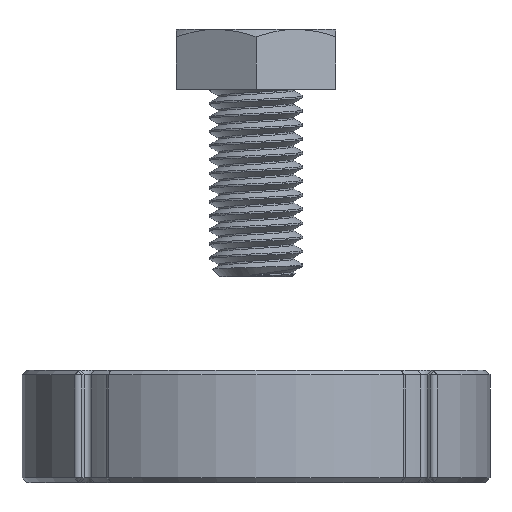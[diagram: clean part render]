
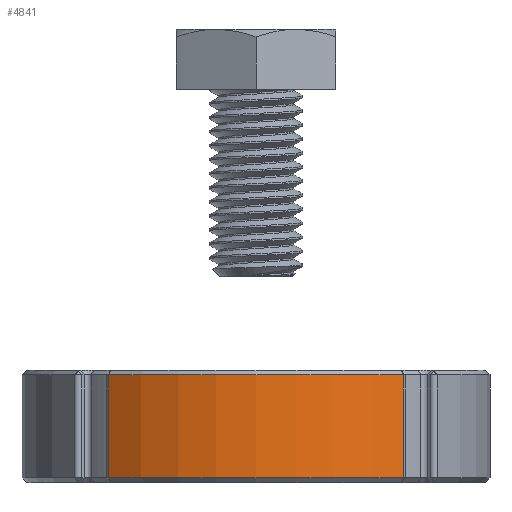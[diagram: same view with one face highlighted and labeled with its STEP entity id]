
A CAD part, front view. The second image highlights one B-rep face of the part: STEP entity #4841.
In plain terms, the highlighted cylindrical face has radius 25 mm (diameter 50 mm), a partial arc.
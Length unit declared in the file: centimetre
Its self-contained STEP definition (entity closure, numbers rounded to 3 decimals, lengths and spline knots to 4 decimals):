
#243=LINE('',#11215,#639);
#244=LINE('',#11219,#640);
#639=VECTOR('',#6481,1.);
#640=VECTOR('',#6486,1.);
#952=CYLINDRICAL_SURFACE('',#5336,2.5);
#1190=FACE_OUTER_BOUND('',#1519,.T.);
#1519=EDGE_LOOP('',(#3803,#3804,#3805,#3806));
#1852=CIRCLE('',#5298,2.5);
#1869=CIRCLE('',#5337,2.5);
#2220=VERTEX_POINT('',#11130);
#2221=VERTEX_POINT('',#11132);
#2241=VERTEX_POINT('',#11214);
#2242=VERTEX_POINT('',#11218);
#2753=EDGE_CURVE('',#2220,#2221,#1852,.T.);
#2794=EDGE_CURVE('',#2241,#2221,#243,.T.);
#2796=EDGE_CURVE('',#2242,#2220,#244,.T.);
#2797=EDGE_CURVE('',#2241,#2242,#1869,.T.);
#3803=ORIENTED_EDGE('',*,*,#2753,.F.);
#3804=ORIENTED_EDGE('',*,*,#2796,.F.);
#3805=ORIENTED_EDGE('',*,*,#2797,.F.);
#3806=ORIENTED_EDGE('',*,*,#2794,.T.);
#4841=ADVANCED_FACE('',(#1190),#952,.T.);
#5298=AXIS2_PLACEMENT_3D('',#11133,#6382,#6383);
#5336=AXIS2_PLACEMENT_3D('',#11217,#6484,#6485);
#5337=AXIS2_PLACEMENT_3D('',#11220,#6487,#6488);
#6382=DIRECTION('center_axis',(0.,0.,-1.));
#6383=DIRECTION('ref_axis',(-0.631,-0.776,0.));
#6481=DIRECTION('',(0.,0.,-1.));
#6484=DIRECTION('center_axis',(0.,0.,-1.));
#6485=DIRECTION('ref_axis',(-0.631,-0.776,0.));
#6486=DIRECTION('',(0.,0.,-1.));
#6487=DIRECTION('center_axis',(0.,0.,1.));
#6488=DIRECTION('ref_axis',(-0.631,-0.776,0.));
#11130=CARTESIAN_POINT('',(1.5782,-1.9389,0.05));
#11132=CARTESIAN_POINT('',(-1.5782,-1.9389,0.05));
#11133=CARTESIAN_POINT('Origin',(0.,0.,
0.05));
#11214=CARTESIAN_POINT('',(-1.5782,-1.9389,1.15));
#11215=CARTESIAN_POINT('',(-1.5782,-1.9389,1.2));
#11217=CARTESIAN_POINT('Origin',(0.,0.,
1.2));
#11218=CARTESIAN_POINT('',(1.5782,-1.9389,1.15));
#11219=CARTESIAN_POINT('',(1.5782,-1.9389,1.2));
#11220=CARTESIAN_POINT('Origin',(0.,0.,
1.15));
